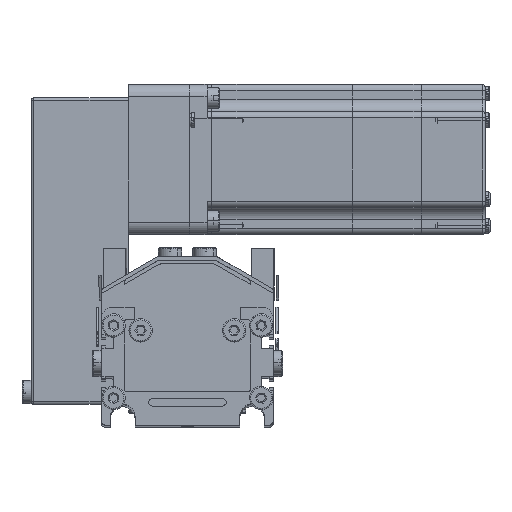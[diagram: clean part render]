
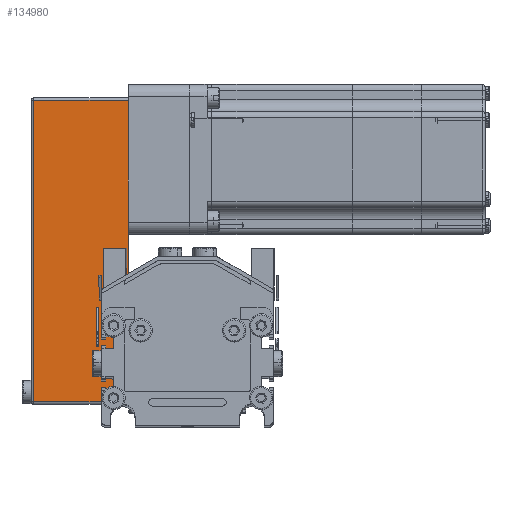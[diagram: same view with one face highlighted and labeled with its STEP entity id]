
A CAD part, top view. The second image highlights one B-rep face of the part: STEP entity #134980.
In plain terms, the highlighted planar face has unit normal (0, 0, 1) as drawn and (0, -1, 0) by its records, which use the part's own axes.
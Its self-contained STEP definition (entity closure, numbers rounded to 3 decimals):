
#33848 = DIRECTION ( 'NONE',  ( -1., 0., 0. ) ) ;
#33850 = VECTOR ( 'NONE', #33848, 1000. ) ;
#33854 = CARTESIAN_POINT ( 'NONE',  ( -50., -25., 38.5 ) ) ;
#33856 = LINE ( 'NONE', #33854, #33850 ) ;
#33859 = DIRECTION ( 'NONE',  ( 0., 0., -1. ) ) ;
#33861 = VECTOR ( 'NONE', #33859, 1000. ) ;
#33863 = CARTESIAN_POINT ( 'NONE',  ( -49., -25., 39.5 ) ) ;
#33864 = LINE ( 'NONE', #33863, #33861 ) ;
#33865 = DIRECTION ( 'NONE',  ( 0., 0., 1. ) ) ;
#33867 = VECTOR ( 'NONE', #33865, 1000. ) ;
#33869 = CARTESIAN_POINT ( 'NONE',  ( 73.5, -25., 39.5 ) ) ;
#33870 = LINE ( 'NONE', #33869, #33867 ) ;
#34206 = CARTESIAN_POINT ( 'NONE',  ( -49., -25., 38.5 ) ) ;
#34299 = CARTESIAN_POINT ( 'NONE',  ( 73.5, -25., 38.5 ) ) ;
#34809 = DIRECTION ( 'NONE',  ( 0., 0., 1. ) ) ;
#34817 = PLANE ( 'NONE',  #34822 ) ;
#34820 = FACE_OUTER_BOUND ( 'NONE', #134870, .T. ) ;
#34822 = AXIS2_PLACEMENT_3D ( 'NONE', #34826, #34825, #34809 ) ;
#34825 = DIRECTION ( 'NONE',  ( 0., 1., 0. ) ) ;
#34826 = CARTESIAN_POINT ( 'NONE',  ( -50., -25., 39.5 ) ) ;
#134513 = VERTEX_POINT ( 'NONE', #156127 ) ;
#134575 = VERTEX_POINT ( 'NONE', #157092 ) ;
#134618 = EDGE_CURVE ( 'NONE', #134513, #134575, #157169, .T. ) ;
#134779 = EDGE_CURVE ( 'NONE', #134850, #134513, #33864, .T. ) ;
#134780 = EDGE_CURVE ( 'NONE', #134869, #134850, #33856, .T. ) ;
#134782 = ORIENTED_EDGE ( 'NONE', *, *, #134618, .T. ) ;
#134786 = EDGE_CURVE ( 'NONE', #134575, #134869, #33870, .T. ) ;
#134850 = VERTEX_POINT ( 'NONE', #34206 ) ;
#134869 = VERTEX_POINT ( 'NONE', #34299 ) ;
#134870 = EDGE_LOOP ( 'NONE', ( #134982, #134981, #134782, #134983 ) ) ;
#134980 = ADVANCED_FACE ( 'NONE', ( #34820 ), #34817, .F. ) ;
#134981 = ORIENTED_EDGE ( 'NONE', *, *, #134779, .T. ) ;
#134982 = ORIENTED_EDGE ( 'NONE', *, *, #134780, .T. ) ;
#134983 = ORIENTED_EDGE ( 'NONE', *, *, #134786, .T. ) ;
#156127 = CARTESIAN_POINT ( 'NONE',  ( -49., -25., 0. ) ) ;
#157092 = CARTESIAN_POINT ( 'NONE',  ( 73.5, -25., 0. ) ) ;
#157164 = DIRECTION ( 'NONE',  ( 1., 0., 0. ) ) ;
#157165 = VECTOR ( 'NONE', #157164, 1000. ) ;
#157166 = CARTESIAN_POINT ( 'NONE',  ( -50., -25., 0. ) ) ;
#157169 = LINE ( 'NONE', #157166, #157165 ) ;
